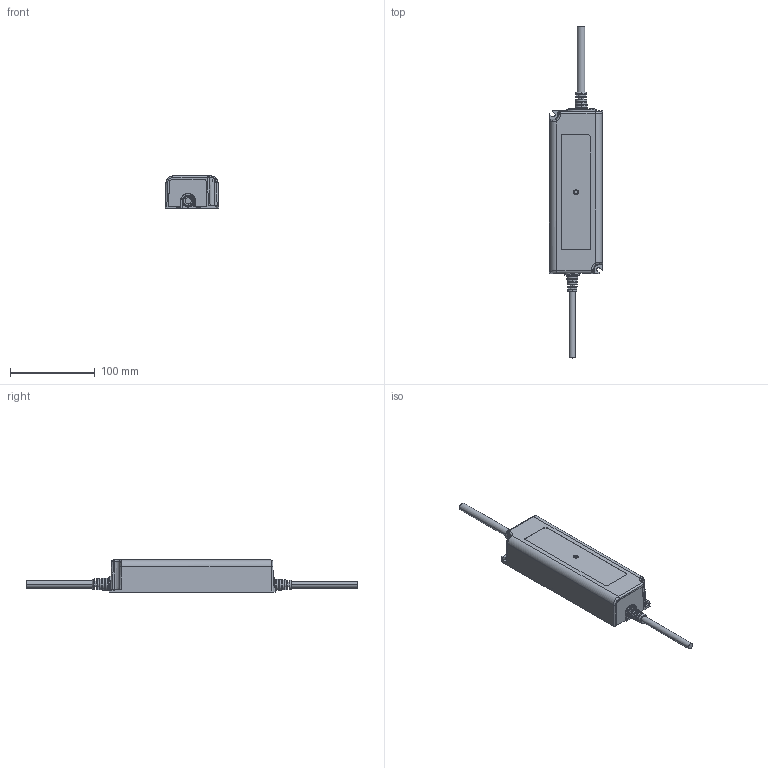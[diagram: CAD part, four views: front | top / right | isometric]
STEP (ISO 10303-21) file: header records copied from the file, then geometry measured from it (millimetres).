
FILE_DESCRIPTION((''),'2;1');
FILE_NAME('LPC-150_ASM','2020-06-22T13:36:32',('shalinice'),(''),'CREO PARAMETRIC BY PTC INC, 2016390','CREO PARAMETRIC BY PTC INC, 2016390','');
FILE_SCHEMA(('AUTOMOTIVE_DESIGN { 1 0 10303 214 1 1 1 1 }'));
Length unit declared in the file: millimetre
Products named in the file (5): K13-244_2; P2_1; 1XX3PWM-120-D_2; NEW-SR_1_1_1_1_1_1-33270_1; LPC-150_ASM
Assembly tree (4 placements, depth 2):
  LPC-150_ASM
    K13-244_2
    P2_1
    1XX3PWM-120-D_2
    NEW-SR_1_1_1_1_1_1-33270_1
Bounding box: 63.35 x 390.75 x 37.69 mm (x, y, z)
Volume: 89627.4 mm3; surface area: 92240.7 mm2
Topology: 3 solids, 4 shells, 772 faces, 2174 edges, 1435 vertices
Faces by surface type: plane 525, cylinder 162, cone 43, bspline 26, sphere 8, torus 7, extrusion 1
Entity records: 36812 total; most frequent: CARTESIAN_POINT 6900, ORIENTED_EDGE 4327, DIRECTION 3950, PRESENTATION_STYLE_ASSIGNMENT 2214, EDGE_CURVE 2166, STYLED_ITEM 1821, CURVE_STYLE 1619, VECTOR 1500
